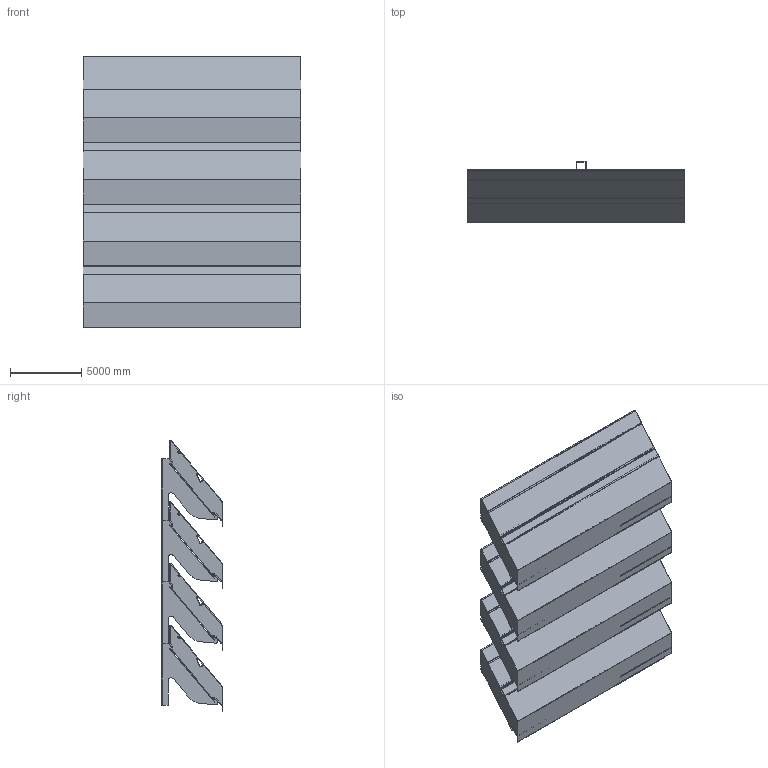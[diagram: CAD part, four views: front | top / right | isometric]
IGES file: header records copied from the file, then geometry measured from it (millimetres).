
Global section: file name: 3D_L_170ACS; native system: AutoCAD 2023 - English; preprocessor: Autodesk Translation Framework DWG producer (atf_dwg_producer); organization: unknown; date: 20260202.111626; units: inch
Bounding box: 15240 x 4299.92 x 19026.59 mm (x, y, z)
Volume: 375388318861.2 mm3; surface area: 3202203649.1 mm2
Topology: 20 solids, 20 shells, 1044 faces, 3012 edges, 2008 vertices
Faces by surface type: bspline 1044
